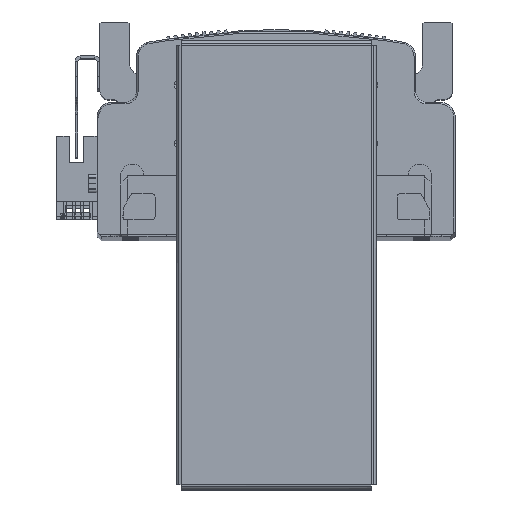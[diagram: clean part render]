
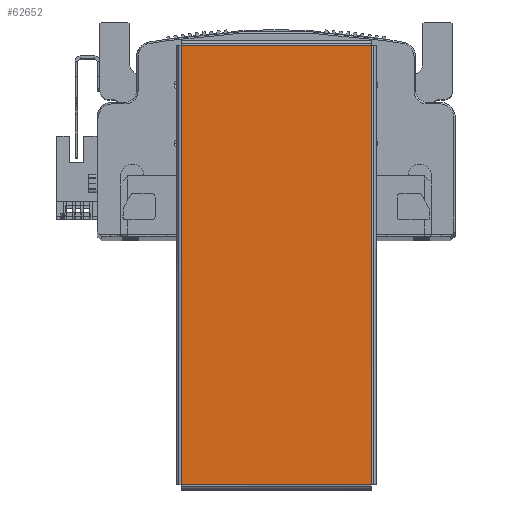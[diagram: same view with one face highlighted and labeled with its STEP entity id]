
A CAD part, top view. The second image highlights one B-rep face of the part: STEP entity #62652.
In plain terms, the highlighted planar face has unit normal (0, 0, 1) as drawn and (0, 0, -1) by its records, which use the part's own axes.
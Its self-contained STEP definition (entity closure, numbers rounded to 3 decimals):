
#16402 = DIRECTION ( 'NONE',  ( -1., 0., 0. ) ) ;
#16424 = CARTESIAN_POINT ( 'NONE',  ( 74.793, -32.363, -1. ) ) ;
#20105 = AXIS2_PLACEMENT_3D ( 'NONE', #47267, #47283, #47299 ) ;
#37541 = FACE_OUTER_BOUND ( 'NONE', #71229, .T. ) ;
#47256 = PLANE ( 'NONE',  #20105 ) ;
#47267 = CARTESIAN_POINT ( 'NONE',  ( 0., 0., -1. ) ) ;
#47283 = DIRECTION ( 'NONE',  ( 0., 0., 1. ) ) ;
#47299 = DIRECTION ( 'NONE',  ( 1., 0., 0. ) ) ;
#53556 = ORIENTED_EDGE ( 'NONE', *, *, #68534, .T. ) ;
#53586 = ORIENTED_EDGE ( 'NONE', *, *, #68410, .T. ) ;
#53588 = ORIENTED_EDGE ( 'NONE', *, *, #68558, .T. ) ;
#53601 = ORIENTED_EDGE ( 'NONE', *, *, #68504, .T. ) ;
#60935 = CARTESIAN_POINT ( 'NONE',  ( -74.763, -32.393, -1. ) ) ;
#60980 = DIRECTION ( 'NONE',  ( 0., 1., 0. ) ) ;
#61015 = DIRECTION ( 'NONE',  ( 1., 0., 0. ) ) ;
#61036 = DIRECTION ( 'NONE',  ( 0., -1., 0. ) ) ;
#61065 = CARTESIAN_POINT ( 'NONE',  ( -74.793, 32.363, -1. ) ) ;
#61077 = CARTESIAN_POINT ( 'NONE',  ( 74.763, 32.393, -1. ) ) ;
#62652 = ADVANCED_FACE ( 'NONE', ( #37541 ), #47256, .F. ) ;
#68410 = EDGE_CURVE ( 'NONE', #82248, #82255, #70965, .T. ) ;
#68504 = EDGE_CURVE ( 'NONE', #82255, #82306, #71004, .T. ) ;
#68534 = EDGE_CURVE ( 'NONE', #82198, #82248, #71051, .T. ) ;
#68558 = EDGE_CURVE ( 'NONE', #82306, #82198, #70991, .T. ) ;
#70930 = VECTOR ( 'NONE', #16402, 1000. ) ;
#70965 = LINE ( 'NONE', #16424, #70930 ) ;
#70991 = LINE ( 'NONE', #61065, #71005 ) ;
#71004 = LINE ( 'NONE', #60935, #71046 ) ;
#71005 = VECTOR ( 'NONE', #61015, 1000. ) ;
#71008 = VECTOR ( 'NONE', #61036, 1000. ) ;
#71046 = VECTOR ( 'NONE', #60980, 1000. ) ;
#71051 = LINE ( 'NONE', #61077, #71008 ) ;
#71229 = EDGE_LOOP ( 'NONE', ( #53556, #53586, #53601, #53588 ) ) ;
#74175 = CARTESIAN_POINT ( 'NONE',  ( -74.763, -32.363, -1. ) ) ;
#74193 = CARTESIAN_POINT ( 'NONE',  ( 74.763, -32.363, -1. ) ) ;
#74207 = CARTESIAN_POINT ( 'NONE',  ( 74.763, 32.363, -1. ) ) ;
#74261 = CARTESIAN_POINT ( 'NONE',  ( -74.763, 32.363, -1. ) ) ;
#82198 = VERTEX_POINT ( 'NONE', #74207 ) ;
#82248 = VERTEX_POINT ( 'NONE', #74193 ) ;
#82255 = VERTEX_POINT ( 'NONE', #74175 ) ;
#82306 = VERTEX_POINT ( 'NONE', #74261 ) ;
